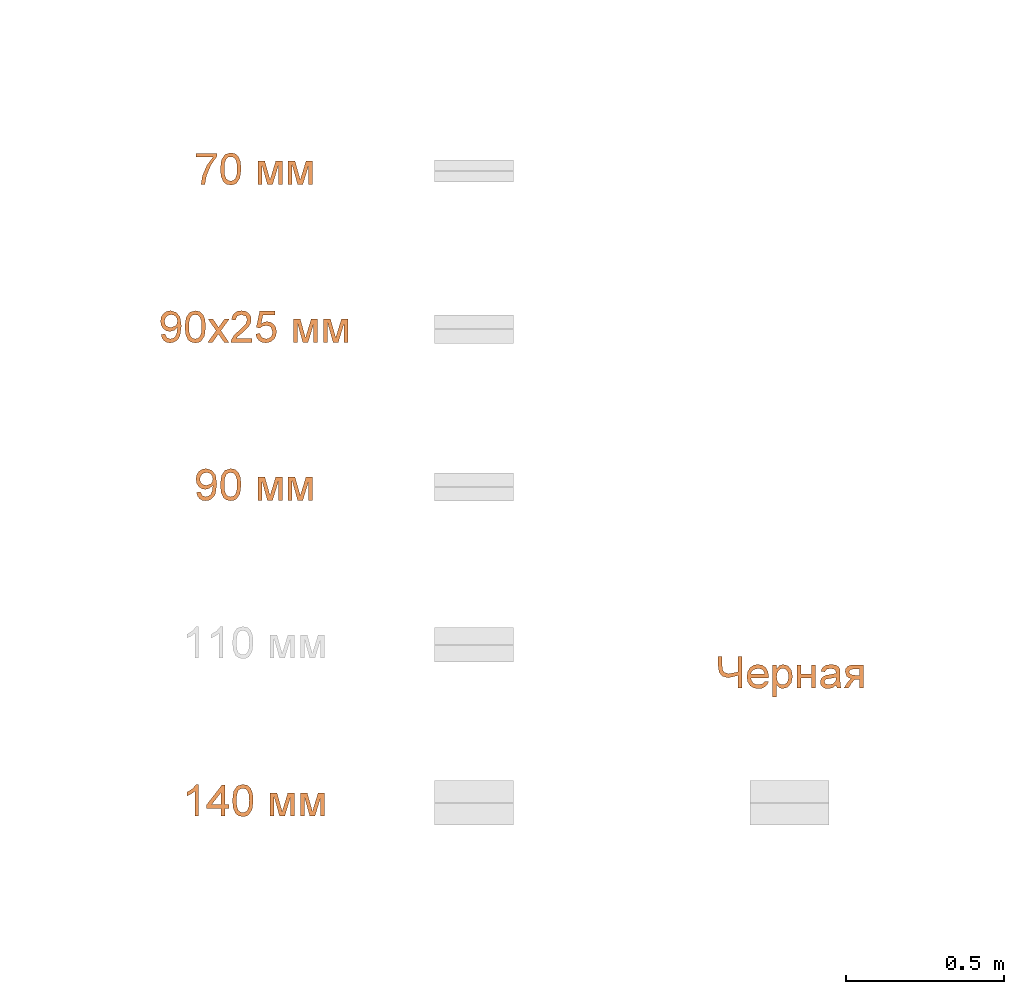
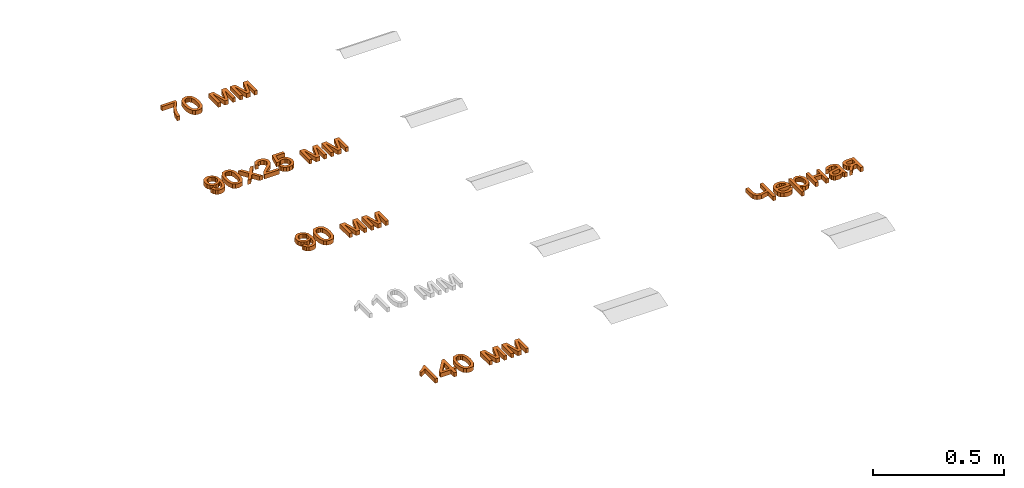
# One storey, part 50 of 87: 5 proxies.
"""IFC2X3 building model written with IfcOpenShell, lengths in millimetres."""

from ifc_helpers import new_model, entity, si_unit, converted_unit, derived_unit, direction, frame, origin, place, context, subcontext, project, spatial, polyline, outline, extrude, element, save


model = new_model("IFC2X3")

# Units and contexts
model_context = context("Model", 3, precision=0.01, world=origin(), true_north=direction((6.12303176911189e-17, 1.0)))
body_context = subcontext(model_context, "Body", "Model", "MODEL_VIEW")
ifc_project = project(units=[si_unit("LENGTHUNIT", "METRE", prefix="MILLI"), si_unit("AREAUNIT", "SQUARE_METRE"), si_unit("VOLUMEUNIT", "CUBIC_METRE"), converted_unit("PLANEANGLEUNIT", "DEGREE", entity("IfcRatioMeasure", 0.0174532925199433), si_unit("PLANEANGLEUNIT", "RADIAN"), dimensions=[0, 0, 0, 0, 0, 0, 0]), si_unit("MASSUNIT", "GRAM", prefix="KILO"), derived_unit("MASSDENSITYUNIT", [(si_unit("MASSUNIT", "GRAM", prefix="KILO"), 1), (si_unit("LENGTHUNIT", "METRE"), -3)]), si_unit("TIMEUNIT", "SECOND"), si_unit("FREQUENCYUNIT", "HERTZ"), si_unit("THERMODYNAMICTEMPERATUREUNIT", "DEGREE_CELSIUS"), derived_unit("THERMALTRANSMITTANCEUNIT", [(si_unit("MASSUNIT", "GRAM", prefix="KILO"), 1), (si_unit("THERMODYNAMICTEMPERATUREUNIT", "KELVIN"), -1), (si_unit("TIMEUNIT", "SECOND"), -3)]), derived_unit("VOLUMETRICFLOWRATEUNIT", [(si_unit("LENGTHUNIT", "METRE"), 3), (si_unit("TIMEUNIT", "SECOND"), -1)]), si_unit("ELECTRICCURRENTUNIT", "AMPERE"), si_unit("ELECTRICVOLTAGEUNIT", "VOLT"), si_unit("POWERUNIT", "WATT"), si_unit("FORCEUNIT", "NEWTON", prefix="KILO"), si_unit("ILLUMINANCEUNIT", "LUX"), si_unit("LUMINOUSFLUXUNIT", "LUMEN"), si_unit("LUMINOUSINTENSITYUNIT", "CANDELA"), derived_unit("USERDEFINED", [(si_unit("MASSUNIT", "GRAM", prefix="KILO"), -1), (si_unit("LENGTHUNIT", "METRE"), -2), (si_unit("TIMEUNIT", "SECOND"), 3), (si_unit("LUMINOUSFLUXUNIT", "LUMEN"), 1)]), derived_unit("LINEARVELOCITYUNIT", [(si_unit("LENGTHUNIT", "METRE"), 1), (si_unit("TIMEUNIT", "SECOND"), -1)]), si_unit("PRESSUREUNIT", "PASCAL"), derived_unit("USERDEFINED", [(si_unit("LENGTHUNIT", "METRE"), -2), (si_unit("MASSUNIT", "GRAM", prefix="KILO"), 1), (si_unit("TIMEUNIT", "SECOND"), -2)])], contexts=[model_context])

# Site, building, storey
site_placement = place(None, origin())
site = spatial("IfcSite", under=ifc_project, at=site_placement, Name="Default", CompositionType="ELEMENT")
building_placement = place(site_placement, origin())
building = spatial("IfcBuilding", under=site, at=building_placement, Name="Наименование здания", CompositionType="ELEMENT")
storey_placement = place(building_placement, origin())
storey = spatial("IfcBuildingStorey", under=building, at=storey_placement, Name="Этаж 01", CompositionType="ELEMENT", Elevation=0.0)

# Proxies
proxy_1_placement = place(storey_placement, origin())
element("IfcBuildingElementProxy", 1, at=proxy_1_placement, inside=storey, Name="Текст модели:100 мм Arial", ObjectType="Текст модели:100 мм Arial", context=body_context, shape_type="SweptSolid", body=[
    extrude(outline(polyline([(-33.1249866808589, -28.4339338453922), (-33.1249866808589, -40.990972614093), (32.7994668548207, -40.990972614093), (32.7994668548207, -30.8374295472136), (14.0987987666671, -3.82262836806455), (-0.211810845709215, 30.5988636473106), (-4.87164945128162, 57.8957076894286), (-17.4286882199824, 57.8957076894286), (-12.4377558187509, 29.5687940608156), (1.25971713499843, -2.44920225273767), (20.2424280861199, -28.4339338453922), (-33.1249866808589, -28.4339338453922)])), frame((12315.184695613, 4534.85828472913, 0.0), z_axis=(0.0, 0.0, -1.0), x_axis=(1.0, 0.0, 0.0)), (0.0, 0.0, -1.0), 20.0),
    extrude(outline(polyline([(-7.0288431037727, -33.3490673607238), (17.5323805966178, -33.3490673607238), (35.1984171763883, -27.6137612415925), (43.3439841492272, -18.4876517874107), (47.0516941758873, -5.75150665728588), (46.7162020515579, 4.48638208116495), (43.4465778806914, 13.0955287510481), (27.9444305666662, 25.665911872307), (-0.31433837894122, 32.2325535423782), (-24.0296505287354, 32.3678288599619), (-39.4143020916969, 28.0260881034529), (-49.7293680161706, 18.9002174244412), (-54.4436715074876, 4.63998875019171), (-50.867658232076, -14.1301059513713), (-35.4058547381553, -26.7333390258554), (-7.0288431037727, -33.3490673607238)]), holes=[polyline([(-5.77428774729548, -20.8548320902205), (-25.0157644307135, -17.3562860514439), (-36.7257089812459, -11.5717922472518), (-41.0962588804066, -4.7759968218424), (-41.9669219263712, 3.21464792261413), (-39.2244253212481, 11.2791292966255), (-32.865406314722, 17.2229259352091), (-20.969837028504, 20.2947501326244), (-1.61768958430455, 19.7433141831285), (17.8514140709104, 16.2707701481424), (28.7803640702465, 10.7141596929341), (33.5546988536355, 3.61815959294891), (34.5599568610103, -4.47255337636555), (31.9421230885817, -12.1923199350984), (25.8471825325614, -18.1754808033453), (14.0250679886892, -21.402747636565), (-5.77428774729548, -20.8548320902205)])]), frame((12392.8631089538, 4522.78575398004, 0.0), z_axis=(0.0, 0.0, 1.0), x_axis=(0.1018515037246, -0.994799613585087, 0.0)), (0.0, 0.0, 1.0), 20.0),
    extrude(outline(polyline([(-40.5839870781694, -38.4502715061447), (33.18861568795, -38.4502715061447), (33.18861568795, -25.893232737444), (-29.0570178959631, -25.893232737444), (33.18861568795, -8.6273044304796), (33.18861568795, 7.85380895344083), (-26.2120637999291, 25.9045521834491), (33.18861568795, 25.9045521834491), (33.18861568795, 38.4615909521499), (-40.5839870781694, 38.4615909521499), (-40.5839870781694, 17.7620973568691), (18.4733358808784, -0.190544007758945), (-40.5839870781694, -16.8433356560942), (-40.5839870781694, -38.4502715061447)])), frame((12516.7137111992, 4510.15119272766, 0.0), z_axis=(0.0, 0.0, 1.0), x_axis=(0.0, -1.0, 0.0)), (0.0, 0.0, 1.0), 20.0),
    extrude(outline(polyline([(-40.5839870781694, -38.4502715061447), (33.18861568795, -38.4502715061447), (33.18861568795, -25.893232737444), (-29.0570178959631, -25.893232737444), (33.18861568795, -8.6273044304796), (33.18861568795, 7.85380895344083), (-26.2120637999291, 25.9045521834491), (33.18861568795, 25.9045521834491), (33.18861568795, 38.4615909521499), (-40.5839870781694, 38.4615909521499), (-40.5839870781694, 17.7620973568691), (18.4733358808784, -0.190544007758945), (-40.5839870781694, -16.8433356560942), (-40.5839870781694, -38.4502715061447)])), frame((12612.4611318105, 4510.15119272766, 0.0), z_axis=(0.0, 0.0, 1.0), x_axis=(0.0, -1.0, 0.0)), (0.0, 0.0, 1.0), 20.0),
])
proxy_2_placement = place(storey_placement, origin())
element("IfcBuildingElementProxy", 2, at=proxy_2_placement, inside=storey, Name="Текст модели:100 мм Arial", ObjectType="Текст модели:100 мм Arial", context=body_context, shape_type="SweptSolid", body=[
    extrude(outline(polyline([(5.58296908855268, -31.7859506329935), (17.2387167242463, -31.7859506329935), (26.9216142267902, -28.1739915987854), (34.2072820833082, -21.2554963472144), (38.6713407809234, -11.3358876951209), (39.9245387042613, -0.903731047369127), (37.9450282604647, 8.926618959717), (32.7793953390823, 17.8190246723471), (24.4742258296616, 25.4373484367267), (-3.90517077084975, 37.3659164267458), (-32.1440557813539, 40.5619140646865), (-49.776907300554, 32.5319597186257), (-59.468326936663, 16.6032994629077), (-60.4499889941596, 4.02951589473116), (-56.4016296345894, -7.53444362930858), (-47.8362588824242, -16.8026666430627), (-35.266886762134, -22.4892406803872), (-21.9841856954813, -23.8222776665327), (-10.3310965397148, -20.2832716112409), (-1.40106329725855, -12.8047998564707), (3.71247002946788, -2.31943974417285), (3.73902096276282, 11.9281903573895), (-2.8599761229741, 24.0883984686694), (-0.471643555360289, 23.5260231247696), (13.133413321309, 18.0099957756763), (22.6158894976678, 11.2224941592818), (27.0079821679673, 2.9145290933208), (26.6924060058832, -7.52395807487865), (20.3410079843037, -16.894547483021), (7.30988926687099, -19.2495752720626), (5.58296908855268, -31.7859506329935)]), holes=[polyline([(-21.7672208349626, 29.1433710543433), (-13.9803799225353, 25.5922442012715), (-8.91107638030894, 19.8291378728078), (-7.47464573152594, 4.45415101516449), (-10.9717321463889, -3.43916536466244), (-16.5473789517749, -8.73312215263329), (-23.5758136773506, -11.1761402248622), (-31.4312638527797, -10.5166404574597), (-39.4119601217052, -6.85973803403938), (-44.9206699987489, -0.817312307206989), (-47.529759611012, 6.83624740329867), (-46.8115950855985, 15.3265517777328), (-43.3781823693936, 22.7799280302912), (-37.7148363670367, 27.7965691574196), (-30.338776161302, 30.0324064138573), (-21.7672208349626, 29.1433710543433)])]), frame((12200.666226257, 4015.68001105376, 0.0), z_axis=(0.0, 0.0, 1.0), x_axis=(0.258284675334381, -0.966068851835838, 0.0)), (0.0, 0.0, 1.0), 20.0),
    extrude(outline(polyline([(-7.02884310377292, -33.349067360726), (17.5323805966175, -33.349067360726), (35.198417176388, -27.6137612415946), (43.3439841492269, -18.4876517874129), (47.0516941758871, -5.75150665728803), (46.7162020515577, 4.48638208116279), (43.4465778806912, 13.095528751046), (27.944430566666, 25.6659118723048), (-0.314338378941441, 32.2325535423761), (-24.0296505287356, 32.3678288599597), (-39.4143020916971, 28.0260881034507), (-49.7293680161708, 18.900217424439), (-54.4436715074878, 4.63998875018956), (-50.8676582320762, -14.1301059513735), (-35.4058547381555, -26.7333390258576), (-7.02884310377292, -33.349067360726)]), holes=[polyline([(-5.7742877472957, -20.8548320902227), (-25.0157644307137, -17.3562860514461), (-36.7257089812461, -11.571792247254), (-41.0962588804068, -4.77599682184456), (-41.9669219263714, 3.21464792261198), (-39.2244253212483, 11.2791292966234), (-32.8654063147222, 17.222925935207), (-20.9698370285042, 20.2947501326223), (-1.61768958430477, 19.7433141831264), (17.8514140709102, 16.2707701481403), (28.7803640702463, 10.7141596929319), (33.5546988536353, 3.61815959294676), (34.5599568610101, -4.4725533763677), (31.9421230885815, -12.1923199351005), (25.8471825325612, -18.1754808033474), (14.025067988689, -21.4027476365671), (-5.7742877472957, -20.8548320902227)])]), frame((12280.6345749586, 4022.78575398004, 0.0), z_axis=(0.0, 0.0, 1.0), x_axis=(0.1018515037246, -0.994799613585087, 0.0)), (0.0, 0.0, 1.0), 20.0),
    extrude(outline(polyline([(-34.530221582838, -38.4265006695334), (-19.422534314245, -38.4265006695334), (-0.341721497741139, -12.0616243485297), (2.47870713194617, -16.1328517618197), (17.8561745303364, -38.4265006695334), (32.9638617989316, -38.4265006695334), (7.40832586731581, -1.34399555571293), (33.944880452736, 35.3461020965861), (18.8371931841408, 35.3461020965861), (4.95577923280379, 16.1671874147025), (0.0261604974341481, 9.34910777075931), (-5.66374769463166, 17.6877663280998), (-17.8529044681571, 35.3461020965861), (-32.9605917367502, 35.3461020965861), (-7.6993614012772, -1.34399555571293), (-34.530221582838, -38.4265006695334)])), frame((12353.476231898, 4015.38907770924, 0.0)), (0.0, 0.0, 1.0), 20.0),
    extrude(outline(polyline([(-32.3858783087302, -45.1669477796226), (-32.3858783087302, -57.7239865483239), (33.5385752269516, -57.7239865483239), (32.1896745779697, -49.0664969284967), (24.5622545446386, -35.7369059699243), (8.84143061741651, -21.1810416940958), (-12.8390816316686, -0.260818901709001), (-18.2592096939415, 13.9639515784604), (-13.1456499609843, 25.4786580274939), (0.20846646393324, 30.1752848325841), (14.1266686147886, 25.5890226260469), (19.4119066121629, 12.9093565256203), (31.9689453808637, 14.4789863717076), (28.9247218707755, 26.6252235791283), (22.3426998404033, 35.4973110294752), (12.5662358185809, 40.9235704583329), (-0.0613136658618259, 42.7323236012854), (-12.7808336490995, 40.7212353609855), (-22.5389035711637, 34.6879706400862), (-28.7469122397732, 25.6748617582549), (-30.8162484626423, 14.7242410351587), (-28.5844310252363, 2.81712712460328), (-21.1654774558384, -9.49465698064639), (-3.17604789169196, -26.6992716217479), (11.2694517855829, -38.7780637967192), (16.9348345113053, -45.1669477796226), (-32.3858783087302, -45.1669477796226)])), frame((12426.2571883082, 4034.68656358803, 0.0), z_axis=(0.0, 0.0, -1.0), x_axis=(-1.0, 0.0, 0.0)), (0.0, 0.0, -1.0), 20.0),
    extrude(outline(polyline([(3.81439562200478, -37.254895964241), (15.73239467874, -37.254895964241), (26.1588137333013, -33.0579698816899), (34.2921694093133, -25.0537205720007), (39.3309783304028, -13.631750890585), (40.2219288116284, 1.43409098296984), (34.3991305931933, 14.6815107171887), (25.5350217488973, 23.1481891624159), (13.9054384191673, 28.2770976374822), (0.912111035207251, 29.4702838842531), (-10.7159258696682, 25.7768606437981), (-19.7427074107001, 18.0989984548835), (-24.9322687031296, 7.33886785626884), (-25.5937300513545, -2.21124798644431), (-22.6370240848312, -12.2793380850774), (-47.9924930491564, 0.0204883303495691), (-38.0977082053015, 37.2324069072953), (-50.2330599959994, 40.459241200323), (-62.7370428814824, -6.56524698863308), (-15.5021967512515, -30.4943712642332), (-10.7584434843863, -18.7623737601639), (-14.4216298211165, -10.4922324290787), (-13.6981616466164, 0.722667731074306), (-9.98738154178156, 9.35727561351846), (-4.32553373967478, 14.6878856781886), (11.4370636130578, 15.9400687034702), (19.7481682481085, 12.2772427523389), (25.4355726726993, 6.40632241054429), (28.0665145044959, -1.27212018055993), (27.2082313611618, -10.3575128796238), (19.6530635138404, -21.925631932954), (5.52431094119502, -24.7161898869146), (3.81439562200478, -37.254895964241)])), frame((12506.2237167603, 4016.90613108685, 0.0), z_axis=(0.0, 0.0, 1.0), x_axis=(0.256974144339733, -0.966418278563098, 0.0)), (0.0, 0.0, 1.0), 20.0),
    extrude(outline(polyline([(-40.5839870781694, -38.4502715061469), (33.18861568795, -38.4502715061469), (33.18861568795, -25.893232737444), (-29.0570178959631, -25.893232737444), (33.18861568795, -8.62730443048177), (33.18861568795, 7.85380895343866), (-26.2120637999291, 25.904552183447), (33.18861568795, 25.904552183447), (33.18861568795, 38.4615909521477), (-40.5839870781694, 38.4615909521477), (-40.5839870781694, 17.762097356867), (18.4733358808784, -0.190544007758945), (-40.5839870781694, -16.8433356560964), (-40.5839870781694, -38.4502715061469)])), frame((12628.9422451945, 4010.15119272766, 0.0), z_axis=(0.0, 0.0, 1.0), x_axis=(0.0, -1.0, 0.0)), (0.0, 0.0, 1.0), 20.0),
    extrude(outline(polyline([(-40.5839870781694, -38.4502715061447), (33.18861568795, -38.4502715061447), (33.18861568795, -25.893232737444), (-29.0570178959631, -25.893232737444), (33.18861568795, -8.6273044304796), (33.18861568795, 7.85380895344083), (-26.2120637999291, 25.9045521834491), (33.18861568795, 25.9045521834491), (33.18861568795, 38.4615909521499), (-40.5839870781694, 38.4615909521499), (-40.5839870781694, 17.7620973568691), (18.4733358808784, -0.190544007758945), (-40.5839870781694, -16.8433356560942), (-40.5839870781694, -38.4502715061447)])), frame((12724.6896658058, 4010.15119272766, 0.0), z_axis=(0.0, 0.0, 1.0), x_axis=(0.0, -1.0, 0.0)), (0.0, 0.0, 1.0), 20.0),
])
proxy_3_placement = place(storey_placement, origin())
element("IfcBuildingElementProxy", 3, at=proxy_3_placement, inside=storey, Name="Текст модели:100 мм Arial", ObjectType="Текст модели:100 мм Arial", context=body_context, shape_type="SweptSolid", body=[
    extrude(outline(polyline([(5.58296908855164, -31.7859506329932), (17.2387167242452, -31.7859506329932), (26.9216142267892, -28.1739915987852), (34.2072820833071, -21.2554963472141), (38.6713407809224, -11.3358876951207), (39.9245387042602, -0.903731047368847), (37.9450282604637, 8.92661895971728), (32.7793953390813, 17.8190246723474), (24.4742258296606, 25.437348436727), (-3.9051707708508, 37.3659164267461), (-32.1440557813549, 40.5619140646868), (-49.776907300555, 32.5319597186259), (-59.468326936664, 16.603299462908), (-60.4499889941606, 4.02951589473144), (-56.4016296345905, -7.5344436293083), (-47.8362588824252, -16.8026666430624), (-35.2668867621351, -22.4892406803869), (-21.9841856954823, -23.8222776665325), (-10.3310965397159, -20.2832716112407), (-1.40106329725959, -12.8047998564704), (3.71247002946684, -2.31943974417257), (3.73902096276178, 11.9281903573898), (-2.85997612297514, 24.0883984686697), (-0.471643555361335, 23.5260231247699), (13.1334133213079, 18.0099957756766), (22.6158894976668, 11.2224941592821), (27.0079821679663, 2.91452909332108), (26.6924060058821, -7.52395807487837), (20.3410079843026, -16.8945474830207), (7.30988926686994, -19.2495752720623), (5.58296908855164, -31.7859506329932)]), holes=[polyline([(-21.7672208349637, 29.1433710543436), (-13.9803799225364, 25.5922442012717), (-8.91107638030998, 19.8291378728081), (-7.47464573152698, 4.45415101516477), (-10.97173214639, -3.43916536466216), (-16.547378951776, -8.73312215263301), (-23.5758136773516, -11.176140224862), (-31.4312638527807, -10.5166404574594), (-39.4119601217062, -6.8597380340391), (-44.9206699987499, -0.81731230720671), (-47.529759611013, 6.83624740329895), (-46.8115950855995, 15.3265517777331), (-43.3781823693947, 22.7799280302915), (-37.7148363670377, 27.7965691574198), (-30.3387761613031, 30.0324064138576), (-21.7672208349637, 29.1433710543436)])]), frame((12312.8947602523, 3515.68001105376, 0.0), z_axis=(0.0, 0.0, 1.0), x_axis=(0.258284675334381, -0.966068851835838, 0.0)), (0.0, 0.0, 1.0), 20.0),
    extrude(outline(polyline([(-7.02884310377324, -33.3490673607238), (17.5323805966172, -33.3490673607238), (35.1984171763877, -27.6137612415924), (43.3439841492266, -18.4876517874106), (47.0516941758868, -5.75150665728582), (46.7162020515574, 4.486382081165), (43.4465778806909, 13.0955287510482), (27.9444305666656, 25.6659118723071), (-0.314338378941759, 32.2325535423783), (-24.0296505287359, 32.3678288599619), (-39.4143020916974, 28.0260881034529), (-49.7293680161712, 18.9002174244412), (-54.4436715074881, 4.63998875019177), (-50.8676582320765, -14.1301059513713), (-35.4058547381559, -26.7333390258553), (-7.02884310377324, -33.3490673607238)]), holes=[polyline([(-5.77428774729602, -20.8548320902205), (-25.015764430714, -17.3562860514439), (-36.7257089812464, -11.5717922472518), (-41.0962588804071, -4.77599682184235), (-41.9669219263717, 3.21464792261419), (-39.2244253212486, 11.2791292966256), (-32.8654063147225, 17.2229259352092), (-20.9698370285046, 20.2947501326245), (-1.61768958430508, 19.7433141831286), (17.8514140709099, 16.2707701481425), (28.780364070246, 10.7141596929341), (33.554698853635, 3.61815959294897), (34.5599568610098, -4.47255337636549), (31.9421230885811, -12.1923199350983), (25.8471825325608, -18.1754808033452), (14.0250679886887, -21.4027476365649), (-5.77428774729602, -20.8548320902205)])]), frame((12392.8631089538, 3522.78575398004, 0.0), z_axis=(0.0, 0.0, 1.0), x_axis=(0.1018515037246, -0.994799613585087, 0.0)), (0.0, 0.0, 1.0), 20.0),
    extrude(outline(polyline([(-40.58398707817, -38.4502715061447), (33.1886156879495, -38.4502715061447), (33.1886156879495, -25.893232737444), (-29.0570178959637, -25.893232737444), (33.1886156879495, -8.6273044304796), (33.1886156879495, 7.85380895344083), (-26.2120637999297, 25.9045521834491), (33.1886156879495, 25.9045521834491), (33.1886156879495, 38.4615909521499), (-40.58398707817, 38.4615909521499), (-40.58398707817, 17.7620973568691), (18.4733358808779, -0.190544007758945), (-40.58398707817, -16.8433356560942), (-40.58398707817, -38.4502715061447)])), frame((12516.7137111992, 3510.15119272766, 0.0), z_axis=(0.0, 0.0, 1.0), x_axis=(0.0, -1.0, 0.0)), (0.0, 0.0, 1.0), 20.0),
    extrude(outline(polyline([(-40.58398707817, -38.4502715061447), (33.1886156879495, -38.4502715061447), (33.1886156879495, -25.893232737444), (-29.0570178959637, -25.893232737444), (33.1886156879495, -8.6273044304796), (33.1886156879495, 7.85380895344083), (-26.2120637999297, 25.9045521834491), (33.1886156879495, 25.9045521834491), (33.1886156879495, 38.4615909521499), (-40.58398707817, 38.4615909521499), (-40.58398707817, 17.7620973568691), (18.4733358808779, -0.190544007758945), (-40.58398707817, -16.8433356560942), (-40.58398707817, -38.4502715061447)])), frame((12612.4611318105, 3510.15119272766, 0.0), z_axis=(0.0, 0.0, 1.0), x_axis=(0.0, -1.0, 0.0)), (0.0, 0.0, 1.0), 20.0),
])
proxy_4_placement = place(storey_placement, origin())
element("IfcBuildingElementProxy", 4, at=proxy_4_placement, inside=storey, Name="Текст модели:100 мм Arial", ObjectType="Текст модели:100 мм Arial", context=body_context, shape_type="SweptSolid", body=[
    extrude(outline(polyline([(-63.8793021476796, -16.9184842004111), (36.5770080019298, -16.9184842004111), (36.5770080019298, -8.82508030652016), (23.2106288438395, 2.34626961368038), (11.4629304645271, 20.7526321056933), (-0.407395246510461, 20.7526321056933), (5.93243780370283, 7.53340574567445), (14.4059864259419, -4.3614454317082), (-63.8793021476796, -4.3614454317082), (-63.8793021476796, -16.9184842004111)])), frame((12273.7741888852, 2540.84187918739, 0.0), z_axis=(0.0, 0.0, 1.0), x_axis=(0.0, 1.0, 0.0)), (0.0, 0.0, 1.0), 20.0),
    extrude(outline(polyline([(-1.14154897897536, -36.3868737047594), (11.4154897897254, -36.3868737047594), (11.4154897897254, -12.8424260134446), (23.9725285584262, -12.8424260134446), (23.9725285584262, -0.285387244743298), (11.4154897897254, -0.285387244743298), (11.4154897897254, 62.4998065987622), (1.99771071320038, 62.4998065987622), (-46.660814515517, -0.285387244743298), (-46.660814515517, -12.8424260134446), (-1.14154897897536, -12.8424260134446), (-1.14154897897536, -36.3868737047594)]), holes=[polyline([(-1.14154897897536, -0.285387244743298), (-31.2097707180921, -0.285387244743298), (-1.14154897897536, 38.5139005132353), (-1.14154897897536, -0.285387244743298)])]), frame((12362.4675651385, 2513.34945074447, 0.0)), (0.0, 0.0, 1.0), 20.0),
    extrude(outline(polyline([(-7.02884310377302, -33.3490673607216), (17.5323805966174, -33.3490673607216), (35.198417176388, -27.6137612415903), (43.3439841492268, -18.4876517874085), (47.051694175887, -5.75150665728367), (46.7162020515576, 4.48638208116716), (43.4465778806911, 13.0955287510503), (27.9444305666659, 25.6659118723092), (-0.314338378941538, 32.2325535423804), (-24.0296505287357, 32.3678288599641), (-39.4143020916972, 28.0260881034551), (-49.7293680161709, 18.9002174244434), (-54.4436715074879, 4.63998875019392), (-50.8676582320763, -14.1301059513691), (-35.4058547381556, -26.7333390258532), (-7.02884310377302, -33.3490673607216)]), holes=[polyline([(-5.7742877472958, -20.8548320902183), (-25.0157644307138, -17.3562860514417), (-36.7257089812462, -11.5717922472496), (-41.0962588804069, -4.77599682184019), (-41.9669219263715, 3.21464792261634), (-39.2244253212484, 11.2791292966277), (-32.8654063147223, 17.2229259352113), (-20.9698370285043, 20.2947501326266), (-1.61768958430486, 19.7433141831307), (17.8514140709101, 16.2707701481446), (28.7803640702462, 10.7141596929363), (33.5546988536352, 3.61815959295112), (34.55995686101, -4.47255337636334), (31.9421230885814, -12.1923199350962), (25.8471825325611, -18.175480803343), (14.0250679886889, -21.4027476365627), (-5.7742877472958, -20.8548320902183)])]), frame((12431.319040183, 2522.78575398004, 0.0), z_axis=(0.0, 0.0, 1.0), x_axis=(0.1018515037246, -0.994799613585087, 0.0)), (0.0, 0.0, 1.0), 20.0),
    extrude(outline(polyline([(-40.58398707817, -38.4502715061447), (33.1886156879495, -38.4502715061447), (33.1886156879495, -25.893232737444), (-29.0570178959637, -25.893232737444), (33.1886156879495, -8.6273044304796), (33.1886156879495, 7.85380895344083), (-26.2120637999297, 25.9045521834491), (33.1886156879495, 25.9045521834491), (33.1886156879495, 38.4615909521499), (-40.58398707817, 38.4615909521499), (-40.58398707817, 17.7620973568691), (18.4733358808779, -0.190544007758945), (-40.58398707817, -16.8433356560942), (-40.58398707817, -38.4502715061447)])), frame((12555.1696424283, 2510.15119272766, 0.0), z_axis=(0.0, 0.0, 1.0), x_axis=(0.0, -1.0, 0.0)), (0.0, 0.0, 1.0), 20.0),
    extrude(outline(polyline([(-40.58398707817, -38.4502715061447), (33.1886156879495, -38.4502715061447), (33.1886156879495, -25.893232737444), (-29.0570178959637, -25.893232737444), (33.1886156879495, -8.6273044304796), (33.1886156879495, 7.85380895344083), (-26.2120637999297, 25.9045521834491), (33.1886156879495, 25.9045521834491), (33.1886156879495, 38.4615909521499), (-40.58398707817, 38.4615909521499), (-40.58398707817, 17.7620973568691), (18.4733358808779, -0.190544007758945), (-40.58398707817, -16.8433356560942), (-40.58398707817, -38.4502715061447)])), frame((12650.9170630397, 2510.15119272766, 0.0), z_axis=(0.0, 0.0, 1.0), x_axis=(0.0, -1.0, 0.0)), (0.0, 0.0, 1.0), 20.0),
])
proxy_5_placement = place(storey_placement, origin())
element("IfcBuildingElementProxy", 5, at=proxy_5_placement, inside=storey, Name="Текст модели:100 мм Arial", ObjectType="Текст модели:100 мм Arial", context=body_context, shape_type="SweptSolid", body=[
    extrude(outline(polyline([(-57.0521744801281, -41.5683661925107), (43.4041356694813, -41.5683661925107), (43.4041356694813, -29.0113274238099), (-5.30344049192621, -29.0113274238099), (-11.5329089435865, 0.689012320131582), (-6.37029827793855, 15.1835629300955), (1.59741260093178, 19.7085114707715), (15.1753239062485, 21.2168276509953), (43.4041356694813, 21.2168276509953), (43.4041356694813, 33.7738664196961), (13.4830667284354, 33.7738664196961), (-6.51745107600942, 31.0883278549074), (-19.1235407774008, 20.4442754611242), (-24.0899477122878, 2.08696390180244), (-16.830409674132, -29.0113274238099), (-57.0521744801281, -29.0113274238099), (-57.0521744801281, -41.5683661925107)])), frame((13969.3197780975, 2938.92664933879, 0.0), z_axis=(0.0, 0.0, 1.0), x_axis=(0.0, 1.0, 0.0)), (0.0, 0.0, 1.0), 20.0),
    extrude(outline(polyline([(-8.10128238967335, -20.3751729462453), (-15.5352214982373, -30.3140016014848), (-5.7840037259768, -33.5775071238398), (4.12185089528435, -33.3132173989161), (13.8776168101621, -29.448077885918), (23.1785684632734, -21.9090340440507), (31.6380426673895, -9.59237957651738), (34.1620486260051, 3.74135328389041), (30.6040508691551, 17.2442201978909), (20.8175139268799, 30.0682768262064), (7.27698270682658, 39.784672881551), (-6.66179525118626, 43.1117813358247), (-19.9642596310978, 40.4221234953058), (-31.5958501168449, 32.0882206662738), (-39.2435519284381, 20.5090048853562), (-41.310682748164, 7.34319797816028), (-37.4373707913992, -6.34962495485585), (-27.2637442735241, -19.5098888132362), (-24.7804584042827, -21.810680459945), (14.4643272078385, 18.7422646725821), (19.7071986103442, 10.6437992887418), (21.1614672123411, 2.21005051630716), (19.1472085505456, -5.98136753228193), (13.9844981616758, -13.3528407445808), (3.53684605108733, -20.3751729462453), (-8.10128238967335, -20.3751729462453)]), holes=[polyline([(5.44081225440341, 27.4746984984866), (-25.1227061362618, -4.10760383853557), (-29.803881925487, 7.41909510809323), (-27.885134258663, 15.7498710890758), (-22.5382240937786, 23.3910349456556), (-8.40970331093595, 31.2368652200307), (-1.08072680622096, 30.9147288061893), (5.44081225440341, 27.4746984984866)])]), frame((14062.6685161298, 2912.19702568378, 0.0), z_axis=(0.0, 0.0, -1.0), x_axis=(-0.695421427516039, -0.718602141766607, 0.0)), (0.0, 0.0, -1.0), 20.0),
    extrude(outline(polyline([(-28.8983569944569, -61.2335493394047), (-16.341318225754, -61.2335493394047), (-16.341318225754, -23.1700255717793), (-8.38280439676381, -31.324743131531), (2.54329085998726, -34.5498419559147), (18.4235303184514, -29.7305878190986), (29.9259740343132, -15.8736993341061), (33.8868368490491, 4.4701749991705), (30.3796951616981, 23.82076794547), (19.9808974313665, 37.5059781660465), (4.06386977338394, 42.3620205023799), (-7.6593031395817, 38.8916670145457), (-16.341318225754, 28.4806065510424), (-16.341318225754, 40.7923906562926), (-28.8983569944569, 40.7923906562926), (-28.8983569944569, -61.2335493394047)]), holes=[polyline([(-16.341318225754, 3.3174780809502), (-14.8912500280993, 14.7064915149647), (-10.5410454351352, 23.0236902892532), (-4.30851130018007, 28.1096588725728), (2.7885455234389, 29.8049817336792), (9.85801119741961, 28.2108264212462), (15.8606190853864, 23.428360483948), (19.9625033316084, 15.4453211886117), (21.3297980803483, 4.24944580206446), (19.9287808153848, -7.43080754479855), (15.7257290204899, -15.5916564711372), (9.56063991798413, -20.3925165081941), (2.27351073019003, -21.9928031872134), (-4.89712249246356, -20.4476988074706), (-10.9089274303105, -15.8123856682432), (-14.9832205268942, -7.93971097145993), (-16.341318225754, 3.3174780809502)])]), frame((14137.1035517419, 2914.85468696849, 0.0)), (0.0, 0.0, 1.0), 20.0),
    extrude(outline(polyline([(-36.1014864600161, -29.0381521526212), (37.6711163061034, -29.0381521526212), (37.6711163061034, -16.4811133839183), (4.70888953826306, -16.4811133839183), (4.70888953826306, 16.4811133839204), (37.6711163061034, 16.4811133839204), (37.6711163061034, 29.0381521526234), (-36.1014864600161, 29.0381521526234), (-36.1014864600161, 16.4811133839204), (-7.84814923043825, 16.4811133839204), (-7.84814923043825, -16.4811133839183), (-36.1014864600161, -16.4811133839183), (-36.1014864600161, -29.0381521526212)])), frame((14214.1552093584, 2919.54559116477, 0.0), z_axis=(0.0, 0.0, 1.0), x_axis=(0.0, -1.0, 0.0)), (0.0, 0.0, 1.0), 20.0),
    extrude(outline(polyline([(32.0508237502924, 7.88266535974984), (41.9780345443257, 7.88266535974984), (45.9489188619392, 19.7953183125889), (35.1414436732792, 20.7608946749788), (14.2438893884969, 27.0545912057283), (-0.577126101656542, 31.9949297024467), (-11.1945882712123, 34.8877809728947), (-20.4974705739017, 33.9299602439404), (-28.5323068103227, 27.5470739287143), (-35.4619652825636, 13.8157249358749), (-38.3044049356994, -2.69989645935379), (-34.9462156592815, -15.3493345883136), (-25.0306383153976, -24.3807697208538), (-19.5706723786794, -12.9644773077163), (-25.7868125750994, -4.50695904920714), (-24.0611841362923, 8.3092251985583), (-16.2279943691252, 20.3304570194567), (-6.33956174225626, 20.6794605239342), (-3.71040200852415, 19.7255176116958), (-6.5024300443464, -2.30048133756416), (-8.14662433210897, -13.2049019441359), (-7.0181796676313, -22.8490321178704), (-2.17478658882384, -31.120415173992), (6.48825595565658, -36.5416029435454), (15.0010331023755, -37.7020395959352), (22.9495879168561, -35.3200906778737), (29.6378522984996, -29.3899394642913), (34.369758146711, -19.9057692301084), (36.2737661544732, -6.3605554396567), (32.0508237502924, 7.88266535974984)]), holes=[polyline([(8.22551784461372, 15.824433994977), (11.5759514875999, 14.6300664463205), (20.1614376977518, 9.67421668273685), (24.4696920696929, -0.396473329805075), (23.3024692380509, -13.3987927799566), (17.24919734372, -22.949855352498), (9.62153186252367, -24.3497471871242), (5.58084684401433, -21.19320437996), (3.98706417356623, -15.5044472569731), (5.47226797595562, -4.61166010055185), (8.22551784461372, 15.824433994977)])]), frame((14291.5043016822, 2919.20561745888, 0.0), z_axis=(0.0, 0.0, 1.0), x_axis=(0.316227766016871, -0.948683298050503, 0.0)), (0.0, 0.0, 1.0), 20.0),
    extrude(outline(polyline([(-36.1880068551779, -39.1855638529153), (-3.42198381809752, -39.1855638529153), (7.43666640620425, -37.7079045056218), (15.3890488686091, -33.2749264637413), (20.2634853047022, -26.4691095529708), (21.8882974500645, -17.8729335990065), (17.1303569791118, -3.64816311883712), (11.097092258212, 1.34890064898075), (2.51317903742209, 3.97925691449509), (13.2062823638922, 14.4271055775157), (25.8123720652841, 34.5870389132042), (11.2932959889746, 34.5870389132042), (1.28690572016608, 18.6454857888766), (-7.46868576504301, 7.92785699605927), (-16.7883629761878, 6.33370168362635), (-23.6309680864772, 6.33370168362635), (-23.6309680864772, 34.5870389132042), (-36.1880068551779, 34.5870389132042), (-36.1880068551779, -39.1855638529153)]), holes=[polyline([(-23.6309680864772, -26.628525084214), (-23.6309680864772, -6.22333708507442), (-10.7796237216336, -6.22333708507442), (4.90441200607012, -8.81077378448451), (9.33125868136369, -16.9164404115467), (6.32688905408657, -23.7222573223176), (-7.07627830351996, -26.628525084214), (-23.6309680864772, -26.628525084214)])]), frame((14359.2594497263, 2916.46151377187, 0.0), z_axis=(0.0, 0.0, 1.0), x_axis=(-1.0, 0.0, 0.0)), (0.0, 0.0, 1.0), 20.0),
])

save(model, "model.ifc")
